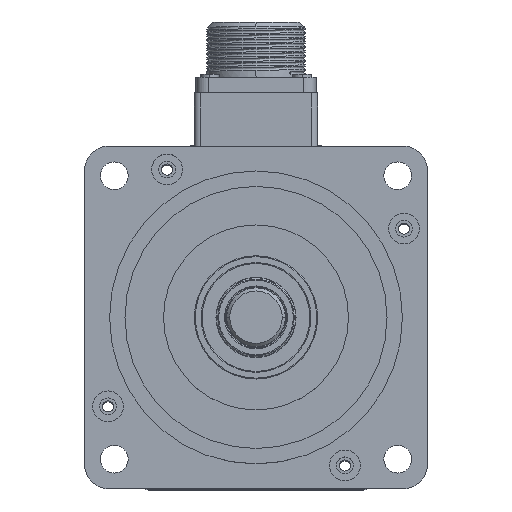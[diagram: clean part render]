
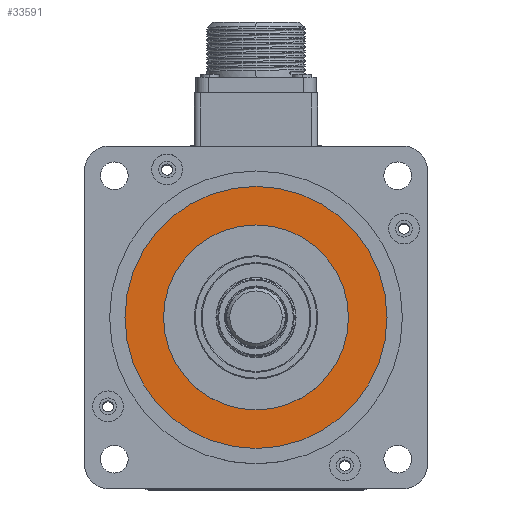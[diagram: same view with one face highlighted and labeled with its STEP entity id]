
A CAD part, top view. The second image highlights one B-rep face of the part: STEP entity #33591.
In plain terms, the highlighted planar face has unit normal (0, 0, 1) as drawn and (1, 0, 0) by its records, which use the part's own axes.
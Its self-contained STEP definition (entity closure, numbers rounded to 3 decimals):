
#407 = VERTEX_POINT ( 'NONE', #45915 ) ;
#1439 = CIRCLE ( 'NONE', #30042, 30. ) ;
#2050 = ORIENTED_EDGE ( 'NONE', *, *, #23905, .F. ) ;
#3526 = EDGE_LOOP ( 'NONE', ( #21839, #51966 ) ) ;
#6420 = AXIS2_PLACEMENT_3D ( 'NONE', #21476, #49759, #25578 ) ;
#6538 = CARTESIAN_POINT ( 'NONE',  ( 12.5, 0., 0. ) ) ;
#7970 = PLANE ( 'NONE',  #11825 ) ;
#9177 = CARTESIAN_POINT ( 'NONE',  ( 12.5, 0., 0. ) ) ;
#10596 = DIRECTION ( 'NONE',  ( 0., 0., 1. ) ) ;
#11825 = AXIS2_PLACEMENT_3D ( 'NONE', #32069, #12018, #40356 ) ;
#12018 = DIRECTION ( 'NONE',  ( -1., 0., 0. ) ) ;
#13219 = DIRECTION ( 'NONE',  ( 0., 0., 1. ) ) ;
#13381 = CARTESIAN_POINT ( 'NONE',  ( 12.5, 0., 0. ) ) ;
#14172 = CARTESIAN_POINT ( 'NONE',  ( 12.5, 0., -42.5 ) ) ;
#14202 = CIRCLE ( 'NONE', #31630, 30. ) ;
#17473 = DIRECTION ( 'NONE',  ( 0., 0., 1. ) ) ;
#21335 = EDGE_CURVE ( 'NONE', #32332, #24808, #21881, .T. ) ;
#21476 = CARTESIAN_POINT ( 'NONE',  ( 12.5, 0., 0. ) ) ;
#21839 = ORIENTED_EDGE ( 'NONE', *, *, #27392, .T. ) ;
#21881 = CIRCLE ( 'NONE', #6420, 42.5 ) ;
#23236 = EDGE_LOOP ( 'NONE', ( #2050, #47947 ) ) ;
#23848 = FACE_BOUND ( 'NONE', #3526, .T. ) ;
#23905 = EDGE_CURVE ( 'NONE', #24808, #32332, #36188, .T. ) ;
#24808 = VERTEX_POINT ( 'NONE', #42531 ) ;
#25578 = DIRECTION ( 'NONE',  ( 0., 0., 1. ) ) ;
#27392 = EDGE_CURVE ( 'NONE', #407, #28714, #14202, .T. ) ;
#28714 = VERTEX_POINT ( 'NONE', #51643 ) ;
#30042 = AXIS2_PLACEMENT_3D ( 'NONE', #13381, #41724, #17473 ) ;
#31630 = AXIS2_PLACEMENT_3D ( 'NONE', #6538, #34863, #10596 ) ;
#32069 = CARTESIAN_POINT ( 'NONE',  ( 12.5, 30., 0. ) ) ;
#32332 = VERTEX_POINT ( 'NONE', #14172 ) ;
#33591 = ADVANCED_FACE ( 'NONE', ( #45320, #23848 ), #7970, .F. ) ;
#34863 = DIRECTION ( 'NONE',  ( -1., 0., 0. ) ) ;
#36188 = CIRCLE ( 'NONE', #47397, 42.5 ) ;
#37479 = DIRECTION ( 'NONE',  ( -1., 0., 0. ) ) ;
#40356 = DIRECTION ( 'NONE',  ( 0., 0., 1. ) ) ;
#41724 = DIRECTION ( 'NONE',  ( -1., 0., 0. ) ) ;
#42531 = CARTESIAN_POINT ( 'NONE',  ( 12.5, 0., 42.5 ) ) ;
#45320 = FACE_OUTER_BOUND ( 'NONE', #23236, .T. ) ;
#45915 = CARTESIAN_POINT ( 'NONE',  ( 12.5, 0., 30. ) ) ;
#47397 = AXIS2_PLACEMENT_3D ( 'NONE', #9177, #37479, #13219 ) ;
#47947 = ORIENTED_EDGE ( 'NONE', *, *, #21335, .F. ) ;
#49759 = DIRECTION ( 'NONE',  ( -1., 0., 0. ) ) ;
#51643 = CARTESIAN_POINT ( 'NONE',  ( 12.5, 0., -30. ) ) ;
#51717 = EDGE_CURVE ( 'NONE', #28714, #407, #1439, .T. ) ;
#51966 = ORIENTED_EDGE ( 'NONE', *, *, #51717, .T. ) ;
